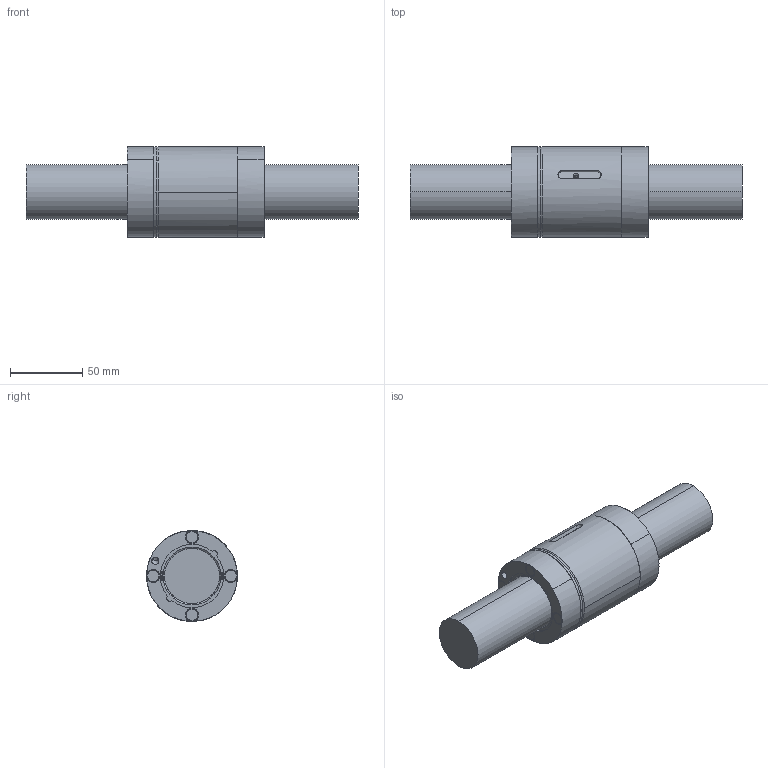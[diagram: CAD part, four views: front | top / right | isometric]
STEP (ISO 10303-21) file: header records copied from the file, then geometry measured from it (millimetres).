
FILE_DESCRIPTION(('Creo Elements/Direct Modeling STEP Export'),'2;1');
FILE_NAME('HSB-KGT-M-4040RH-4g.stp','2026-07-03T12:05:25',(''),(''),'Creo Elements/Direct Modeling STEP processor for AP214 (Solid Model)','Creo Elements/Direct Modeling 20.1D 10-Oct-2020 (C) Parametric Technology GmbH','');
FILE_SCHEMA(('AUTOMOTIVE_DESIGN { 1 0 10303 214 1 1 1 1 }'));
Length unit declared in the file: millimetre
Products named in the file (3): KGS-4040RH-4g_28848; HSB-KGM-M-4040RH-4g_29850; HSB-KGT-M-4040RH-4g
Assembly tree (2 placements, depth 2):
  HSB-KGT-M-4040RH-4g
    HSB-KGM-M-4040RH-4g_29850
    KGS-4040RH-4g_28848
Bounding box: 230 x 63 x 62.9 mm (x, y, z)
Volume: 446228 mm3; surface area: 64587 mm2
Topology: 2 solids, 2 shells, 967 faces, 2773 edges, 1843 vertices
Faces by surface type: plane 895, cylinder 44, cone 26, torus 2
Entity records: 31588 total; most frequent: CARTESIAN_POINT 6337, ORIENTED_EDGE 5538, DIRECTION 4668, EDGE_CURVE 2769, VECTOR 2614, LINE 2614, VERTEX_POINT 1843, AXIS2_PLACEMENT_3D 1027
